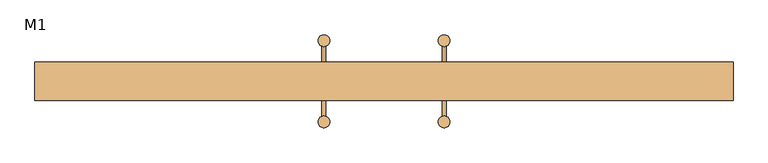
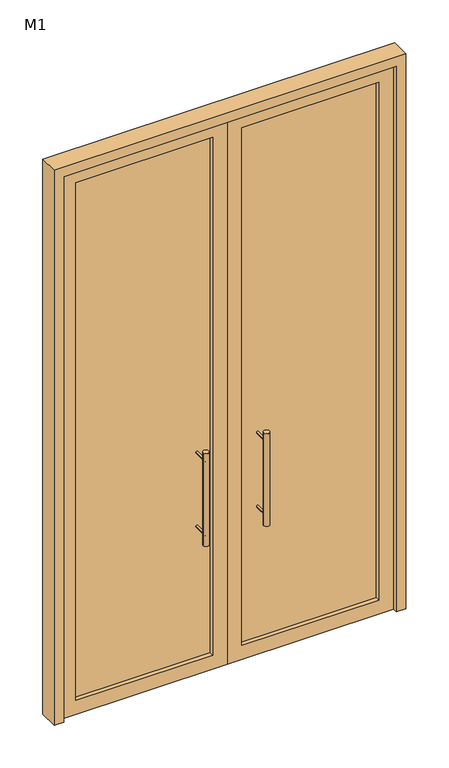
"""IFC4 building model written with IfcOpenShell, lengths in millimetres: door geometry, 双面嵌板玻璃门 : M1."""

from ifc_helpers import new_model, si_unit, point, frame, frame_2d, origin, place, context, project, spatial, polyline, circle_curve, trimmed, segment, composite_curve, outline, extrude, source, transform, mapped, element, save


def m1_23ed398d(model_context):
    return source(origin(), model_context, "Body", "SweptSolid", [
        extrude(outline(composite_curve([segment(trimmed(circle_curve(frame_2d((155.0, 105.0)), 15.0), [point((140.0, 105.0))], [point((170.0, 105.0))], False, "CARTESIAN"), True, "CONTINUOUS"), segment(trimmed(circle_curve(frame_2d((155.0, 105.0)), 15.0), [point((170.0, 105.0))], [point((140.0, 105.0))], False, "CARTESIAN"), True, "CONTINUOUS")], self_intersect=False)), frame((0.0, 0.0, 750.0), z_axis=(0.0, 0.0, 1.0), x_axis=(1.0, 0.0, 0.0)), (0.0, 0.0, 1.0), 500.0),
        extrude(outline(composite_curve([segment(trimmed(circle_curve(frame_2d((1200.0, 155.0)), 5.0), [point((1200.0, 150.0))], [point((1200.0, 160.0))], False, "CARTESIAN"), True, "CONTINUOUS"), segment(trimmed(circle_curve(frame_2d((1200.0, 155.0)), 5.0), [point((1200.0, 160.0))], [point((1200.0, 150.0))], False, "CARTESIAN"), True, "CONTINUOUS")], self_intersect=False)), frame((0.0, 25.0, 0.0), z_axis=(0.0, 1.0, 0.0), x_axis=(0.0, 0.0, 1.0)), (0.0, 0.0, 1.0), 80.0),
        extrude(outline(composite_curve([segment(trimmed(circle_curve(frame_2d((800.0, 155.0)), 5.0), [point((800.0, 150.0))], [point((800.0, 160.0))], False, "CARTESIAN"), True, "CONTINUOUS"), segment(trimmed(circle_curve(frame_2d((800.0, 155.0)), 5.0), [point((800.0, 160.0))], [point((800.0, 150.0))], False, "CARTESIAN"), True, "CONTINUOUS")], self_intersect=False)), frame((0.0, 25.0, 0.0), z_axis=(0.0, 1.0, 0.0), x_axis=(0.0, 0.0, 1.0)), (0.0, 0.0, 1.0), 80.0),
        extrude(outline(composite_curve([segment(trimmed(circle_curve(frame_2d((1200.0, 155.0)), 5.0), [point((1200.0, 150.0))], [point((1200.0, 160.0))], False, "CARTESIAN"), True, "CONTINUOUS"), segment(trimmed(circle_curve(frame_2d((1200.0, 155.0)), 5.0), [point((1200.0, 160.0))], [point((1200.0, 150.0))], False, "CARTESIAN"), True, "CONTINUOUS")], self_intersect=False)), frame((0.0, -105.0, 0.0), z_axis=(0.0, 1.0, 0.0), x_axis=(0.0, 0.0, 1.0)), (0.0, 0.0, 1.0), 80.0),
        extrude(outline(composite_curve([segment(trimmed(circle_curve(frame_2d((800.0, 155.0)), 5.0), [point((800.0, 150.0))], [point((800.0, 160.0))], False, "CARTESIAN"), True, "CONTINUOUS"), segment(trimmed(circle_curve(frame_2d((800.0, 155.0)), 5.0), [point((800.0, 160.0))], [point((800.0, 150.0))], False, "CARTESIAN"), True, "CONTINUOUS")], self_intersect=False)), frame((0.0, -105.0, 0.0), z_axis=(0.0, 1.0, 0.0), x_axis=(0.0, 0.0, 1.0)), (0.0, 0.0, 1.0), 80.0),
        extrude(outline(composite_curve([segment(trimmed(circle_curve(frame_2d((155.0, -105.0)), 15.0), [point((140.0, -105.0))], [point((170.0, -105.0))], False, "CARTESIAN"), True, "CONTINUOUS"), segment(trimmed(circle_curve(frame_2d((155.0, -105.0)), 15.0), [point((170.0, -105.0))], [point((140.0, -105.0))], False, "CARTESIAN"), True, "CONTINUOUS")], self_intersect=False)), frame((0.0, 0.0, 750.0), z_axis=(0.0, 0.0, 1.0), x_axis=(1.0, 0.0, 0.0)), (0.0, 0.0, 1.0), 500.0),
        extrude(outline(composite_curve([segment(trimmed(circle_curve(frame_2d((-155.0, 105.0)), 15.0), [point((-170.0, 105.0))], [point((-140.0, 105.0))], False, "CARTESIAN"), True, "CONTINUOUS"), segment(trimmed(circle_curve(frame_2d((-155.0, 105.0)), 15.0), [point((-140.0, 105.0))], [point((-170.0, 105.0))], False, "CARTESIAN"), True, "CONTINUOUS")], self_intersect=False)), frame((0.0, 0.0, 750.0), z_axis=(0.0, 0.0, 1.0), x_axis=(1.0, 0.0, 0.0)), (0.0, 0.0, 1.0), 500.0),
        extrude(outline(composite_curve([segment(trimmed(circle_curve(frame_2d((1200.0, -155.0)), 5.0), [point((1200.0, -160.0))], [point((1200.0, -150.0))], False, "CARTESIAN"), True, "CONTINUOUS"), segment(trimmed(circle_curve(frame_2d((1200.0, -155.0)), 5.0), [point((1200.0, -150.0))], [point((1200.0, -160.0))], False, "CARTESIAN"), True, "CONTINUOUS")], self_intersect=False)), frame((0.0, 25.0, 0.0), z_axis=(0.0, 1.0, 0.0), x_axis=(0.0, 0.0, 1.0)), (0.0, 0.0, 1.0), 80.0),
        extrude(outline(composite_curve([segment(trimmed(circle_curve(frame_2d((800.0, -155.0)), 5.0), [point((800.0, -160.0))], [point((800.0, -150.0))], False, "CARTESIAN"), True, "CONTINUOUS"), segment(trimmed(circle_curve(frame_2d((800.0, -155.0)), 5.0), [point((800.0, -150.0))], [point((800.0, -160.0))], False, "CARTESIAN"), True, "CONTINUOUS")], self_intersect=False)), frame((0.0, 25.0, 0.0), z_axis=(0.0, 1.0, 0.0), x_axis=(0.0, 0.0, 1.0)), (0.0, 0.0, 1.0), 80.0),
        extrude(outline(composite_curve([segment(trimmed(circle_curve(frame_2d((1200.0, -155.0)), 5.0), [point((1200.0, -160.0))], [point((1200.0, -150.0))], False, "CARTESIAN"), True, "CONTINUOUS"), segment(trimmed(circle_curve(frame_2d((1200.0, -155.0)), 5.0), [point((1200.0, -150.0))], [point((1200.0, -160.0))], False, "CARTESIAN"), True, "CONTINUOUS")], self_intersect=False)), frame((0.0, -105.0, 0.0), z_axis=(0.0, 1.0, 0.0), x_axis=(0.0, 0.0, 1.0)), (0.0, 0.0, 1.0), 80.0),
        extrude(outline(composite_curve([segment(trimmed(circle_curve(frame_2d((800.0, -155.0)), 5.0), [point((800.0, -160.0))], [point((800.0, -150.0))], False, "CARTESIAN"), True, "CONTINUOUS"), segment(trimmed(circle_curve(frame_2d((800.0, -155.0)), 5.0), [point((800.0, -150.0))], [point((800.0, -160.0))], False, "CARTESIAN"), True, "CONTINUOUS")], self_intersect=False)), frame((0.0, -105.0, 0.0), z_axis=(0.0, 1.0, 0.0), x_axis=(0.0, 0.0, 1.0)), (0.0, 0.0, 1.0), 80.0),
        extrude(outline(composite_curve([segment(trimmed(circle_curve(frame_2d((-155.0, -105.0)), 15.0), [point((-170.0, -105.0))], [point((-140.0, -105.0))], False, "CARTESIAN"), True, "CONTINUOUS"), segment(trimmed(circle_curve(frame_2d((-155.0, -105.0)), 15.0), [point((-140.0, -105.0))], [point((-170.0, -105.0))], False, "CARTESIAN"), True, "CONTINUOUS")], self_intersect=False)), frame((0.0, 0.0, 750.0), z_axis=(0.0, 0.0, 1.0), x_axis=(1.0, 0.0, 0.0)), (0.0, 0.0, 1.0), 500.0),
        extrude(outline(polyline([(75.0, 2.0), (775.0, 2.0), (775.0, -2.0), (75.0, -2.0), (75.0, 2.0)])), frame((0.0, 0.0, 75.0), z_axis=(0.0, 0.0, 1.0), x_axis=(1.0, 0.0, 0.0)), (0.0, 0.0, 1.0), 2800.0),
        extrude(outline(polyline([(-775.0, 2.0), (-75.0, 2.0), (-75.0, -2.0), (-775.0, -2.0), (-775.0, 2.0)])), frame((0.0, 0.0, 75.0), z_axis=(0.0, 0.0, 1.0), x_axis=(1.0, 0.0, 0.0)), (0.0, 0.0, 1.0), 2800.0),
        extrude(outline(polyline([(2950.0, 0.0), (2950.0, -850.0), (0.0, -850.0), (0.0, 0.0), (2950.0, 0.0)]), holes=[polyline([(2875.0, -775.0), (2875.0, -75.0), (75.0, -75.0), (75.0, -775.0), (2875.0, -775.0)])]), frame((0.0, -25.0, 0.0), z_axis=(0.0, 1.0, 0.0), x_axis=(0.0, 0.0, 1.0)), (0.0, 0.0, 1.0), 50.0),
        extrude(outline(polyline([(2950.0, 0.0), (0.0, 0.0), (0.0, 850.0), (2950.0, 850.0), (2950.0, 0.0)]), holes=[polyline([(2875.0, 775.0), (75.0, 775.0), (75.0, 75.0), (2875.0, 75.0), (2875.0, 775.0)])]), frame((0.0, -25.0, 0.0), z_axis=(0.0, 1.0, 0.0), x_axis=(0.0, 0.0, 1.0)), (0.0, 0.0, 1.0), 50.0),
        extrude(outline(polyline([(3000.0, 900.0), (3000.0, -900.0), (0.0, -900.0), (0.0, -850.0), (2950.0, -850.0), (2950.0, 850.0), (0.0, 850.0), (0.0, 900.0), (3000.0, 900.0)])), frame((0.0, -50.0, 0.0), z_axis=(0.0, 1.0, 0.0), x_axis=(0.0, 0.0, 1.0)), (0.0, 0.0, 1.0), 100.0),
    ])


if __name__ == "__main__":
    model = new_model("IFC4")
    model_context = context("Model", 3, world=origin())
    ifc_project = project(units=[si_unit("LENGTHUNIT", "METRE", prefix="MILLI")], contexts=[model_context])
    site = spatial("IfcSite", under=ifc_project)
    building = spatial("IfcBuilding", under=site)
    placement = place(None, origin())
    m1_shape = m1_23ed398d(model_context)
    element("IfcDoor", 1, ObjectType="双面嵌板玻璃门 : M1", at=placement, inside=building, context=model_context, shape_type="MappedRepresentation", body=[
        mapped(m1_shape, transform((0.0, 0.0, 0.0), x_axis=(1.0, 0.0, 0.0), y_axis=(0.0, 1.0, 0.0), z_axis=(0.0, 0.0, 1.0))),
    ])
    save(model, "model.ifc")
